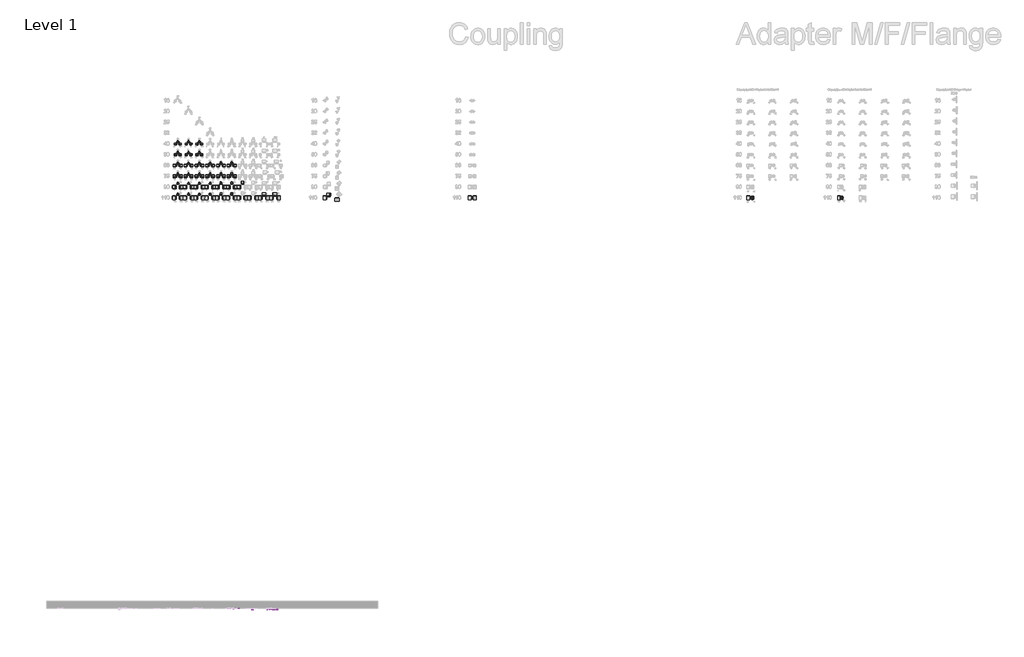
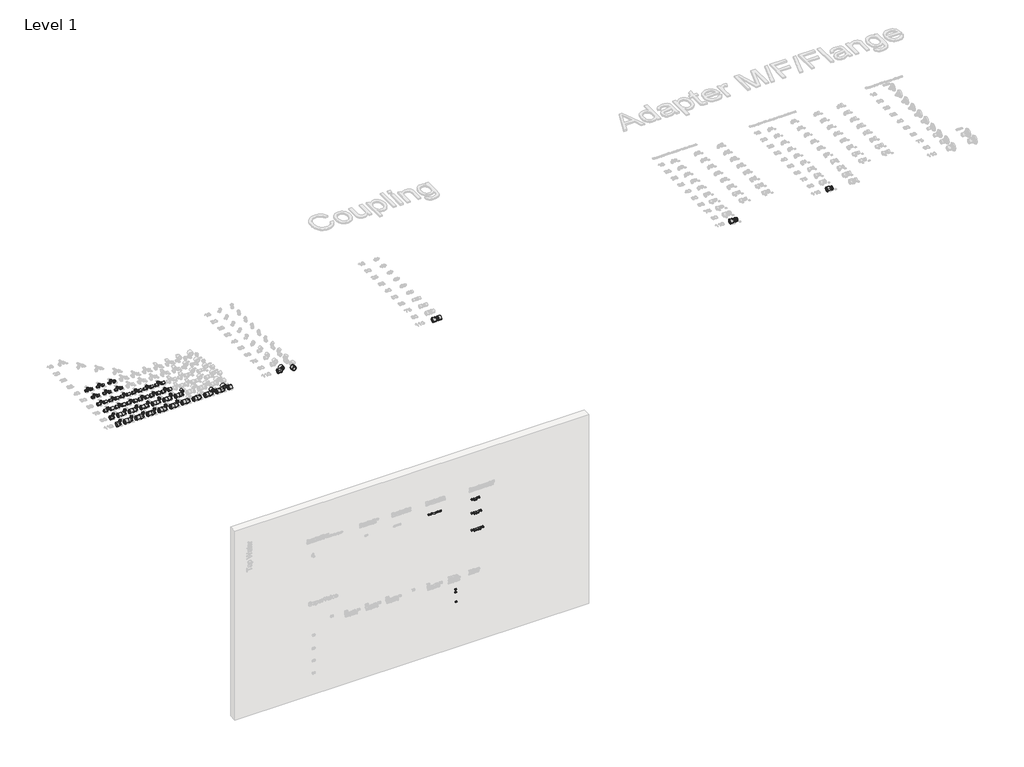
# One storey, part 2 of 58: 126 pipe fittings, 7 valves.
"""IFC4 building model written with IfcOpenShell, lengths in millimetres."""

from ifc_helpers import new_model, si_unit, origin, place, context, project, spatial, transform, mapped, element, save
from components import pipe_fitting_fd43bd29, manifold_cap_ft_2143a354, manifold_cap_mt_88d565de, rs_adapter_8da40ca7, rs_adapter_b4bbd465, rs_adapter_f82712ed, rs_adapter_ef84fdb0, rs_adapter_c6cd646c, rs_adapter_ed761ce0, rs_adapter_634e7d73, rs_adapter_fc67200b, rs_adapter_b700a1d7, rs_adapter_1ad0a11d, rs_female_adapter_0a1702e8, rs_male_adapter_f12c7176, manifold_baea2700, manifold_b658bd2c, manifold_a6c2bfd1, mounting_plate_curved_ba3850a4, valve_ad88a9f9, valve_6c7f2e19, valve_fd31198a

model = new_model("IFC4")

# Units and contexts
model_context = context("Model", 3, world=origin())
ifc_project = project(units=[si_unit("LENGTHUNIT", "METRE", prefix="MILLI")], contexts=[model_context])

# Site, building, storey
site = spatial("IfcSite", under=ifc_project)
building = spatial("IfcBuilding", under=site)
storey = spatial("IfcBuildingStorey", under=building, Name="Level 1", Elevation=27.3876384)

# Pipe fittings
placement = place(None, origin())
pipe_fitting_shape = pipe_fitting_fd43bd29(model_context)
element("IfcPipeFitting", 1, ObjectType="Compression Adapter 1/2\"FT : Superpipe Compression Adapter", at=placement, inside=storey, context=model_context, shape_type="MappedRepresentation", body=[
    mapped(pipe_fitting_shape, transform((15832.3970974, 4511.8440939, 3928.2014319), x_axis=(0.0, 0.0, 1.0000000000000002), y_axis=(0.0, 1.0000000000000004, 0.0), z_axis=(-1.0000000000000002, 0.0, 0.0))),
])
element("IfcPipeFitting", 2, ObjectType="Compression Adapter 1/2\"FT : Superpipe Compression Adapter", at=placement, inside=storey, context=model_context, shape_type="MappedRepresentation", body=[
    mapped(pipe_fitting_shape, transform((15882.3970974, 4511.8440939, 3928.2014319), x_axis=(0.0, 0.0, 1.0000000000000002), y_axis=(0.0, 1.0000000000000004, 0.0), z_axis=(-1.0000000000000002, 0.0, 0.0))),
])
element("IfcPipeFitting", 3, ObjectType="Compression Adapter 1/2\"FT : Superpipe Compression Adapter", at=placement, inside=storey, context=model_context, shape_type="MappedRepresentation", body=[
    mapped(pipe_fitting_shape, transform((15832.3970974, 4511.8440939, 3550.5915778), x_axis=(0.0, 0.0, 1.0000000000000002), y_axis=(0.0, 1.0000000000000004, 0.0), z_axis=(-1.0000000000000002, 0.0, 0.0))),
])
element("IfcPipeFitting", 4, ObjectType="Compression Adapter 1/2\"FT : Superpipe Compression Adapter", at=placement, inside=storey, context=model_context, shape_type="MappedRepresentation", body=[
    mapped(pipe_fitting_shape, transform((15882.3970974, 4511.8440939, 3550.5915778), x_axis=(0.0, 0.0, 1.0000000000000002), y_axis=(0.0, 1.0000000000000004, 0.0), z_axis=(-1.0000000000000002, 0.0, 0.0))),
])
element("IfcPipeFitting", 5, ObjectType="Compression Adapter 1/2\"FT : Superpipe Compression Adapter", at=placement, inside=storey, context=model_context, shape_type="MappedRepresentation", body=[
    mapped(pipe_fitting_shape, transform((15932.3970974, 4511.8440939, 3550.5915778), x_axis=(0.0, 0.0, 1.0000000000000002), y_axis=(0.0, 1.0000000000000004, 0.0), z_axis=(-1.0000000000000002, 0.0, 0.0))),
])
element("IfcPipeFitting", 6, ObjectType="Compression Adapter 1/2\"FT : Superpipe Compression Adapter", at=placement, inside=storey, context=model_context, shape_type="MappedRepresentation", body=[
    mapped(pipe_fitting_shape, transform((15832.3970974, 4511.8440939, 3084.9820677), x_axis=(0.0, 0.0, 1.0000000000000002), y_axis=(0.0, 1.0000000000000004, 0.0), z_axis=(-1.0000000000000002, 0.0, 0.0))),
])
element("IfcPipeFitting", 7, ObjectType="Compression Adapter 1/2\"FT : Superpipe Compression Adapter", at=placement, inside=storey, context=model_context, shape_type="MappedRepresentation", body=[
    mapped(pipe_fitting_shape, transform((15882.3970974, 4511.8440939, 3084.9820677), x_axis=(0.0, 0.0, 1.0000000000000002), y_axis=(0.0, 1.0000000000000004, 0.0), z_axis=(-1.0000000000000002, 0.0, 0.0))),
])
element("IfcPipeFitting", 8, ObjectType="Compression Adapter 1/2\"FT : Superpipe Compression Adapter", at=placement, inside=storey, context=model_context, shape_type="MappedRepresentation", body=[
    mapped(pipe_fitting_shape, transform((15932.3970974, 4511.8440939, 3084.9820677), x_axis=(0.0, 0.0, 1.0000000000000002), y_axis=(0.0, 1.0000000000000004, 0.0), z_axis=(-1.0000000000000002, 0.0, 0.0))),
])
element("IfcPipeFitting", 9, ObjectType="Compression Adapter 1/2\"FT : Superpipe Compression Adapter", at=placement, inside=storey, context=model_context, shape_type="MappedRepresentation", body=[
    mapped(pipe_fitting_shape, transform((15982.3970974, 4511.8440939, 3084.9820677), x_axis=(0.0, 0.0, 1.0000000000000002), y_axis=(0.0, 1.0000000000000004, 0.0), z_axis=(-1.0000000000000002, 0.0, 0.0))),
])
manifold_cap_ft_shape = manifold_cap_ft_2143a354(model_context)
element("IfcPipeFitting", 10, ObjectType="Manifold Cap FT : Superpipe Manifold Cap With Seal- 1\" FT", at=placement, inside=storey, context=model_context, shape_type="MappedRepresentation", body=[
    mapped(manifold_cap_ft_shape, transform((15768.3970974, 4511.8440939, 3974.0856598), x_axis=(-1.0, 0.0, 0.0), y_axis=(0.0, -1.0, 0.0), z_axis=(0.0, 0.0, 1.0))),
])
element("IfcPipeFitting", 11, ObjectType="Manifold Cap FT : Superpipe Manifold Cap With Seal- 1\" FT", at=placement, inside=storey, context=model_context, shape_type="MappedRepresentation", body=[
    mapped(manifold_cap_ft_shape, transform((15768.3970974, 4511.8440939, 3596.4758057), x_axis=(-1.0, 0.0, 0.0), y_axis=(0.0, -1.0, 0.0), z_axis=(0.0, 0.0, 1.0))),
])
element("IfcPipeFitting", 12, ObjectType="Manifold Cap FT : Superpipe Manifold Cap With Seal- 1\" FT", at=placement, inside=storey, context=model_context, shape_type="MappedRepresentation", body=[
    mapped(manifold_cap_ft_shape, transform((15768.3970974, 4511.8440939, 3130.8662956), x_axis=(-1.0, 0.0, 0.0), y_axis=(0.0, -1.0, 0.0), z_axis=(0.0, 0.0, 1.0))),
])
manifold_cap_mt_shape = manifold_cap_mt_88d565de(model_context)
element("IfcPipeFitting", 13, ObjectType="Manifold Cap MT : Superpipe manifold Cap with seal- 1“MT", at=placement, inside=storey, context=model_context, shape_type="MappedRepresentation", body=[
    mapped(manifold_cap_mt_shape, transform((15941.7970974, 4511.8440939, 3974.0856598), x_axis=(1.0, 0.0, 0.0), y_axis=(0.0, -1.0, 0.0), z_axis=(0.0, 0.0, -1.0))),
])
element("IfcPipeFitting", 14, ObjectType="Manifold Cap MT : Superpipe manifold Cap with seal- 1“MT", at=placement, inside=storey, context=model_context, shape_type="MappedRepresentation", body=[
    mapped(manifold_cap_mt_shape, transform((15991.7970974, 4511.8440939, 3596.4755454), x_axis=(1.0, 0.0, 0.0), y_axis=(0.0, -1.0, 0.0), z_axis=(0.0, 0.0, -1.0))),
])
element("IfcPipeFitting", 15, ObjectType="Manifold Cap MT : Superpipe manifold Cap with seal- 1“MT", at=placement, inside=storey, context=model_context, shape_type="MappedRepresentation", body=[
    mapped(manifold_cap_mt_shape, transform((16041.7970974, 4511.8440939, 3130.8660352), x_axis=(1.0, 0.0, 0.0), y_axis=(0.0, -1.0, 0.0), z_axis=(0.0, 0.0, -1.0))),
])
rs_adapter_shape = rs_adapter_8da40ca7(model_context)
element("IfcPipeFitting", 16, ObjectType="RS Adapter : Superpipe RS Press Adapter", at=placement, inside=storey, context=model_context, shape_type="MappedRepresentation", body=[
    mapped(rs_adapter_shape, transform((13313.8568613, 15946.8081159, 27.3876384), x_axis=(1.0, 0.0, 0.0), y_axis=(0.0, 1.0, 0.0), z_axis=(0.0, 0.0, 1.0))),
])
element("IfcPipeFitting", 17, ObjectType="RS Adapter : Superpipe RS Press Adapter", at=placement, inside=storey, context=model_context, shape_type="MappedRepresentation", body=[
    mapped(rs_adapter_shape, transform((13217.8568613, 15946.8081159, 27.3876384), x_axis=(-1.0000000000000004, 0.0, 0.0), y_axis=(0.0, -1.0000000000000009, 0.0), z_axis=(0.0, 0.0, 1.0000000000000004))),
])
element("IfcPipeFitting", 18, ObjectType="RS Adapter : Superpipe RS Press Adapter", at=placement, inside=storey, context=model_context, shape_type="MappedRepresentation", body=[
    mapped(rs_adapter_shape, transform((13613.8568613, 15946.8081159, 27.3876384), x_axis=(1.0, 0.0, 0.0), y_axis=(0.0, 1.0, 0.0), z_axis=(0.0, 0.0, 1.0))),
])
element("IfcPipeFitting", 19, ObjectType="RS Adapter : Superpipe RS Press Adapter", at=placement, inside=storey, context=model_context, shape_type="MappedRepresentation", body=[
    mapped(rs_adapter_shape, transform((13517.8568613, 15946.8081159, 27.3876384), x_axis=(-1.0000000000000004, 0.0, 0.0), y_axis=(0.0, -1.0000000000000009, 0.0), z_axis=(0.0, 0.0, 1.0000000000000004))),
])
element("IfcPipeFitting", 20, ObjectType="RS Adapter : Superpipe RS Press Adapter", at=placement, inside=storey, context=model_context, shape_type="MappedRepresentation", body=[
    mapped(rs_adapter_shape, transform((13913.8568613, 15946.8081159, 27.3876384), x_axis=(1.0, 0.0, 0.0), y_axis=(0.0, 1.0, 0.0), z_axis=(0.0, 0.0, 1.0))),
])
element("IfcPipeFitting", 21, ObjectType="RS Adapter : Superpipe RS Press Adapter", at=placement, inside=storey, context=model_context, shape_type="MappedRepresentation", body=[
    mapped(rs_adapter_shape, transform((13817.8568613, 15946.8081159, 27.3876384), x_axis=(-1.0000000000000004, 0.0, 0.0), y_axis=(0.0, -1.0000000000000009, 0.0), z_axis=(0.0, 0.0, 1.0000000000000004))),
])
element("IfcPipeFitting", 22, ObjectType="RS Adapter : Superpipe RS Press Adapter", at=placement, inside=storey, context=model_context, shape_type="MappedRepresentation", body=[
    mapped(rs_adapter_shape, transform((15705.8568613, 15946.8081159, 27.3876384), x_axis=(1.0, 0.0, 0.0), y_axis=(0.0, 1.0, 0.0), z_axis=(0.0, 0.0, 1.0))),
])
element("IfcPipeFitting", 23, ObjectType="RS Adapter : Superpipe RS Press Adapter", at=placement, inside=storey, context=model_context, shape_type="MappedRepresentation", body=[
    mapped(rs_adapter_shape, transform((15609.8568613, 15946.8081159, 27.3876384), x_axis=(-1.0000000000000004, 0.0, 0.0), y_axis=(0.0, -1.0000000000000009, 0.0), z_axis=(0.0, 0.0, 1.0000000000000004))),
])
element("IfcPipeFitting", 24, ObjectType="RS Adapter : Superpipe RS Press Adapter", at=placement, inside=storey, context=model_context, shape_type="MappedRepresentation", body=[
    mapped(rs_adapter_shape, transform((16013.8568613, 15946.8081159, 27.3876384), x_axis=(1.0, 0.0, 0.0), y_axis=(0.0, 1.0, 0.0), z_axis=(0.0, 0.0, 1.0))),
])
element("IfcPipeFitting", 25, ObjectType="RS Adapter : Superpipe RS Press Adapter", at=placement, inside=storey, context=model_context, shape_type="MappedRepresentation", body=[
    mapped(rs_adapter_shape, transform((15965.8568613, 15994.8081159, 27.3876384), x_axis=(0.0, 1.0000000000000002, 0.0), y_axis=(-1.0000000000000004, 0.0, 0.0), z_axis=(0.0, 0.0, 1.0000000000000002))),
])
element("IfcPipeFitting", 26, ObjectType="RS Adapter : Superpipe RS Press Adapter", at=placement, inside=storey, context=model_context, shape_type="MappedRepresentation", body=[
    mapped(rs_adapter_shape, transform((15917.8568613, 15946.8081159, 27.3876384), x_axis=(-1.0000000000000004, 0.0, 0.0), y_axis=(0.0, -1.0000000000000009, 0.0), z_axis=(0.0, 0.0, 1.0000000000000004))),
])
element("IfcPipeFitting", 27, ObjectType="RS Adapter : Superpipe RS Press Adapter", at=placement, inside=storey, context=model_context, shape_type="MappedRepresentation", body=[
    mapped(rs_adapter_shape, transform((21437.9646899, 15946.8081159, 27.3876384), x_axis=(-1.0000000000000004, 0.0, 0.0), y_axis=(0.0, 1.0000000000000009, 0.0), z_axis=(0.0, 0.0, -1.0000000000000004))),
])
element("IfcPipeFitting", 28, ObjectType="RS Adapter : Superpipe RS Press Adapter", at=placement, inside=storey, context=model_context, shape_type="MappedRepresentation", body=[
    mapped(rs_adapter_shape, transform((21455.9646899, 15946.8081159, 27.3876384), x_axis=(1.0000000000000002, 0.0, 0.0), y_axis=(0.0, -1.0000000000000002, 0.0), z_axis=(0.0, 0.0, -1.0))),
])
element("IfcPipeFitting", 29, ObjectType="RS Adapter : Superpipe RS Press Adapter", at=placement, inside=storey, context=model_context, shape_type="MappedRepresentation", body=[
    mapped(rs_adapter_shape, transform((29176.6568613, 15946.8081159, 27.3876384), x_axis=(-1.0, 0.0, 0.0), y_axis=(0.0, 1.0, 0.0), z_axis=(0.0, 0.0, -1.0))),
])
element("IfcPipeFitting", 30, ObjectType="RS Adapter : Superpipe RS Press Adapter", at=placement, inside=storey, context=model_context, shape_type="MappedRepresentation", body=[
    mapped(rs_adapter_shape, transform((31696.6568613, 15946.8081159, 27.3876384), x_axis=(-1.0000000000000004, 0.0, 0.0), y_axis=(0.0, 1.0000000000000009, 0.0), z_axis=(0.0, 0.0, -1.0000000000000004))),
])
element("IfcPipeFitting", 31, ObjectType="RS Adapter : Superpipe RS Press Adapter", at=placement, inside=storey, context=model_context, shape_type="MappedRepresentation", body=[
    mapped(rs_adapter_shape, transform((17459.3568613, 15977.8081159, 27.3876384), x_axis=(0.0, 1.000000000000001, 0.0), y_axis=(-1.0000000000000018, 0.0, 0.0), z_axis=(0.0, 0.0, 1.0000000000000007))),
])
element("IfcPipeFitting", 32, ObjectType="RS Adapter : Superpipe RS Press Adapter", at=placement, inside=storey, context=model_context, shape_type="MappedRepresentation", body=[
    mapped(rs_adapter_shape, transform((17411.3568613, 15946.8081159, 27.3876384), x_axis=(-1.0000000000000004, 0.0, 0.0), y_axis=(0.0, -1.0000000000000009, 0.0), z_axis=(0.0, 0.0, 1.0000000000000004))),
])
element("IfcPipeFitting", 33, ObjectType="RS Adapter : Superpipe RS Press Adapter", at=placement, inside=storey, context=model_context, shape_type="MappedRepresentation", body=[
    mapped(rs_adapter_shape, transform((17689.2955265, 15954.8896532, 27.3876384), x_axis=(0.0, -1.000000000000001, 0.0), y_axis=(1.0000000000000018, 0.0, 0.0), z_axis=(0.0, 0.0, 1.0000000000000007))),
])
element("IfcPipeFitting", 34, ObjectType="RS Adapter : Superpipe RS Press Adapter", at=placement, inside=storey, context=model_context, shape_type="MappedRepresentation", body=[
    mapped(rs_adapter_shape, transform((15405.2392827, 15946.8081159, 27.3876384), x_axis=(1.0, 0.0, 0.0), y_axis=(0.0, 1.0, 0.0), z_axis=(0.0, 0.0, 1.0))),
])
element("IfcPipeFitting", 35, ObjectType="RS Adapter : Superpipe RS Press Adapter", at=placement, inside=storey, context=model_context, shape_type="MappedRepresentation", body=[
    mapped(rs_adapter_shape, transform((15309.2392827, 15946.8081159, 27.3876384), x_axis=(-1.0000000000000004, 0.0, 0.0), y_axis=(0.0, -1.0000000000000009, 0.0), z_axis=(0.0, 0.0, 1.0000000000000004))),
])
element("IfcPipeFitting", 36, ObjectType="RS Adapter : Superpipe RS Press Adapter", at=placement, inside=storey, context=model_context, shape_type="MappedRepresentation", body=[
    mapped(rs_adapter_shape, transform((15105.765703, 15946.8081159, 27.3876384), x_axis=(1.0, 0.0, 0.0), y_axis=(0.0, 1.0, 0.0), z_axis=(0.0, 0.0, 1.0))),
])
element("IfcPipeFitting", 37, ObjectType="RS Adapter : Superpipe RS Press Adapter", at=placement, inside=storey, context=model_context, shape_type="MappedRepresentation", body=[
    mapped(rs_adapter_shape, transform((15009.765703, 15946.8081159, 27.3876384), x_axis=(-1.0000000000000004, 0.0, 0.0), y_axis=(0.0, -1.0000000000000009, 0.0), z_axis=(0.0, 0.0, 1.0000000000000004))),
])
element("IfcPipeFitting", 38, ObjectType="RS Adapter : Superpipe RS Press Adapter", at=placement, inside=storey, context=model_context, shape_type="MappedRepresentation", body=[
    mapped(rs_adapter_shape, transform((14809.5592318, 15946.8081159, 27.3876384), x_axis=(1.0, 0.0, 0.0), y_axis=(0.0, 1.0, 0.0), z_axis=(0.0, 0.0, 1.0))),
])
element("IfcPipeFitting", 39, ObjectType="RS Adapter : Superpipe RS Press Adapter", at=placement, inside=storey, context=model_context, shape_type="MappedRepresentation", body=[
    mapped(rs_adapter_shape, transform((14713.5592318, 15946.8081159, 27.3876384), x_axis=(-1.0000000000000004, 0.0, 0.0), y_axis=(0.0, -1.0000000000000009, 0.0), z_axis=(0.0, 0.0, 1.0000000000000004))),
])
element("IfcPipeFitting", 40, ObjectType="RS Adapter : Superpipe RS Press Adapter", at=placement, inside=storey, context=model_context, shape_type="MappedRepresentation", body=[
    mapped(rs_adapter_shape, transform((14508.4742183, 15946.8081159, 27.3876384), x_axis=(1.0, 0.0, 0.0), y_axis=(0.0, 1.0, 0.0), z_axis=(0.0, 0.0, 1.0))),
])
element("IfcPipeFitting", 41, ObjectType="RS Adapter : Superpipe RS Press Adapter", at=placement, inside=storey, context=model_context, shape_type="MappedRepresentation", body=[
    mapped(rs_adapter_shape, transform((14412.4742183, 15946.8081159, 27.3876384), x_axis=(-1.0000000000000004, 0.0, 0.0), y_axis=(0.0, -1.0000000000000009, 0.0), z_axis=(0.0, 0.0, 1.0000000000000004))),
])
element("IfcPipeFitting", 42, ObjectType="RS Adapter : Superpipe RS Press Adapter", at=placement, inside=storey, context=model_context, shape_type="MappedRepresentation", body=[
    mapped(rs_adapter_shape, transform((14211.0780706, 15945.8788923, 27.3876384), x_axis=(1.0, 0.0, 0.0), y_axis=(0.0, 1.0, 0.0), z_axis=(0.0, 0.0, 1.0))),
])
element("IfcPipeFitting", 43, ObjectType="RS Adapter : Superpipe RS Press Adapter", at=placement, inside=storey, context=model_context, shape_type="MappedRepresentation", body=[
    mapped(rs_adapter_shape, transform((14115.0780706, 15945.8788923, 27.3876384), x_axis=(-1.0000000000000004, 0.0, 0.0), y_axis=(0.0, -1.0000000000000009, 0.0), z_axis=(0.0, 0.0, 1.0000000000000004))),
])
rs_adapter_2_shape = rs_adapter_b4bbd465(model_context)
element("IfcPipeFitting", 44, ObjectType="RS Adapter : Superpipe RS Press Adapter", at=placement, inside=storey, context=model_context, shape_type="MappedRepresentation", body=[
    mapped(rs_adapter_2_shape, transform((13265.8568613, 16021.8081159, 27.3876384), x_axis=(0.0, 1.0000000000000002, 0.0), y_axis=(-1.0000000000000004, 0.0, 0.0), z_axis=(0.0, 0.0, 1.0000000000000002))),
])
element("IfcPipeFitting", 45, ObjectType="RS Adapter : Superpipe RS Press Adapter", at=placement, inside=storey, context=model_context, shape_type="MappedRepresentation", body=[
    mapped(rs_adapter_2_shape, transform((13265.8568613, 16321.8081159, 27.3876384), x_axis=(0.0, 1.0000000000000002, 0.0), y_axis=(1.0000000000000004, 0.0, 0.0), z_axis=(0.0, 0.0, -1.0000000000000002))),
])
element("IfcPipeFitting", 46, ObjectType="RS Adapter : Superpipe RS Press Adapter", at=placement, inside=storey, context=model_context, shape_type="MappedRepresentation", body=[
    mapped(rs_adapter_2_shape, transform((13265.8568613, 17477.8081159, 27.3876384), x_axis=(0.0, 1.0000000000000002, 0.0), y_axis=(1.0000000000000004, 0.0, 0.0), z_axis=(0.0, 0.0, -1.0000000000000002))),
])
element("IfcPipeFitting", 47, ObjectType="RS Adapter : Superpipe RS Press Adapter", at=placement, inside=storey, context=model_context, shape_type="MappedRepresentation", body=[
    mapped(rs_adapter_2_shape, transform((13265.8568613, 17177.8081159, 27.3876384), x_axis=(0.0, 1.0000000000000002, 0.0), y_axis=(1.0000000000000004, 0.0, 0.0), z_axis=(0.0, 0.0, -1.0000000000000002))),
])
element("IfcPipeFitting", 48, ObjectType="RS Adapter : Superpipe RS Press Adapter", at=placement, inside=storey, context=model_context, shape_type="MappedRepresentation", body=[
    mapped(rs_adapter_2_shape, transform((13265.8568613, 16877.8081159, 27.3876384), x_axis=(0.0, 1.0000000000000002, 0.0), y_axis=(1.0000000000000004, 0.0, 0.0), z_axis=(0.0, 0.0, -1.0000000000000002))),
])
element("IfcPipeFitting", 49, ObjectType="RS Adapter : Superpipe RS Press Adapter", at=placement, inside=storey, context=model_context, shape_type="MappedRepresentation", body=[
    mapped(rs_adapter_2_shape, transform((13265.8568613, 16577.8081159, 27.3876384), x_axis=(0.0, 1.0000000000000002, 0.0), y_axis=(1.0000000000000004, 0.0, 0.0), z_axis=(0.0, 0.0, -1.0000000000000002))),
])
rs_adapter_3_shape = rs_adapter_f82712ed(model_context)
element("IfcPipeFitting", 50, ObjectType="RS Adapter : Superpipe RS Press Adapter", at=placement, inside=storey, context=model_context, shape_type="MappedRepresentation", body=[
    mapped(rs_adapter_3_shape, transform((13565.8568613, 16021.8081159, 27.3876384), x_axis=(0.0, 1.0000000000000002, 0.0), y_axis=(-1.0000000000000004, 0.0, 0.0), z_axis=(0.0, 0.0, 1.0000000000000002))),
])
element("IfcPipeFitting", 51, ObjectType="RS Adapter : Superpipe RS Press Adapter", at=placement, inside=storey, context=model_context, shape_type="MappedRepresentation", body=[
    mapped(rs_adapter_3_shape, transform((13565.8568613, 16321.8081159, 27.3876384), x_axis=(0.0, 1.0000000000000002, 0.0), y_axis=(1.0000000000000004, 0.0, 0.0), z_axis=(0.0, 0.0, -1.0000000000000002))),
])
element("IfcPipeFitting", 52, ObjectType="RS Adapter : Superpipe RS Press Adapter", at=placement, inside=storey, context=model_context, shape_type="MappedRepresentation", body=[
    mapped(rs_adapter_3_shape, transform((13565.8568613, 17477.8081159, 27.3876384), x_axis=(0.0, 1.0000000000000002, 0.0), y_axis=(1.0000000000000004, 0.0, 0.0), z_axis=(0.0, 0.0, -1.0000000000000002))),
])
element("IfcPipeFitting", 53, ObjectType="RS Adapter : Superpipe RS Press Adapter", at=placement, inside=storey, context=model_context, shape_type="MappedRepresentation", body=[
    mapped(rs_adapter_3_shape, transform((13565.8568613, 17177.8081159, 27.3876384), x_axis=(0.0, 1.0000000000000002, 0.0), y_axis=(1.0000000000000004, 0.0, 0.0), z_axis=(0.0, 0.0, -1.0000000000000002))),
])
element("IfcPipeFitting", 54, ObjectType="RS Adapter : Superpipe RS Press Adapter", at=placement, inside=storey, context=model_context, shape_type="MappedRepresentation", body=[
    mapped(rs_adapter_3_shape, transform((13565.8568613, 16877.8081159, 27.3876384), x_axis=(0.0, 1.0000000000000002, 0.0), y_axis=(1.0000000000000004, 0.0, 0.0), z_axis=(0.0, 0.0, -1.0000000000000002))),
])
element("IfcPipeFitting", 55, ObjectType="RS Adapter : Superpipe RS Press Adapter", at=placement, inside=storey, context=model_context, shape_type="MappedRepresentation", body=[
    mapped(rs_adapter_3_shape, transform((13565.8568613, 16577.8081159, 27.3876384), x_axis=(0.0, 1.0000000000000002, 0.0), y_axis=(1.0000000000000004, 0.0, 0.0), z_axis=(0.0, 0.0, -1.0000000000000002))),
])
rs_adapter_4_shape = rs_adapter_ef84fdb0(model_context)
element("IfcPipeFitting", 56, ObjectType="RS Adapter : Superpipe RS Press Adapter", at=placement, inside=storey, context=model_context, shape_type="MappedRepresentation", body=[
    mapped(rs_adapter_4_shape, transform((13865.8568613, 16021.8081159, 27.3876384), x_axis=(0.0, 1.0000000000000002, 0.0), y_axis=(-1.0000000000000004, 0.0, 0.0), z_axis=(0.0, 0.0, 1.0000000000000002))),
])
element("IfcPipeFitting", 57, ObjectType="RS Adapter : Superpipe RS Press Adapter", at=placement, inside=storey, context=model_context, shape_type="MappedRepresentation", body=[
    mapped(rs_adapter_4_shape, transform((13865.8568613, 16321.8081159, 27.3876384), x_axis=(0.0, 1.0000000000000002, 0.0), y_axis=(1.0000000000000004, 0.0, 0.0), z_axis=(0.0, 0.0, -1.0000000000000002))),
])
element("IfcPipeFitting", 58, ObjectType="RS Adapter : Superpipe RS Press Adapter", at=placement, inside=storey, context=model_context, shape_type="MappedRepresentation", body=[
    mapped(rs_adapter_4_shape, transform((13865.8568613, 17477.8081159, 27.3876384), x_axis=(0.0, 1.0000000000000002, 0.0), y_axis=(1.0000000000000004, 0.0, 0.0), z_axis=(0.0, 0.0, -1.0000000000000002))),
])
element("IfcPipeFitting", 59, ObjectType="RS Adapter : Superpipe RS Press Adapter", at=placement, inside=storey, context=model_context, shape_type="MappedRepresentation", body=[
    mapped(rs_adapter_4_shape, transform((13865.8568613, 17177.8081159, 27.3876384), x_axis=(0.0, 1.0000000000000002, 0.0), y_axis=(1.0000000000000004, 0.0, 0.0), z_axis=(0.0, 0.0, -1.0000000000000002))),
])
element("IfcPipeFitting", 60, ObjectType="RS Adapter : Superpipe RS Press Adapter", at=placement, inside=storey, context=model_context, shape_type="MappedRepresentation", body=[
    mapped(rs_adapter_4_shape, transform((13865.8568613, 16877.8081159, 27.3876384), x_axis=(0.0, 1.0000000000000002, 0.0), y_axis=(1.0000000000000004, 0.0, 0.0), z_axis=(0.0, 0.0, -1.0000000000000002))),
])
element("IfcPipeFitting", 61, ObjectType="RS Adapter : Superpipe RS Press Adapter", at=placement, inside=storey, context=model_context, shape_type="MappedRepresentation", body=[
    mapped(rs_adapter_4_shape, transform((13865.8568613, 16577.8081159, 27.3876384), x_axis=(0.0, 1.0000000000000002, 0.0), y_axis=(1.0000000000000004, 0.0, 0.0), z_axis=(0.0, 0.0, -1.0000000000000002))),
])
rs_adapter_5_shape = rs_adapter_c6cd646c(model_context)
element("IfcPipeFitting", 62, ObjectType="RS Adapter : Superpipe RS Press Adapter", at=placement, inside=storey, context=model_context, shape_type="MappedRepresentation", body=[
    mapped(rs_adapter_5_shape, transform((15657.8568613, 15994.8081159, 27.3876384), x_axis=(0.0, 1.0000000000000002, 0.0), y_axis=(-1.0000000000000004, 0.0, 0.0), z_axis=(0.0, 0.0, 1.0000000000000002))),
])
element("IfcPipeFitting", 63, ObjectType="RS Adapter : Superpipe RS Press Adapter", at=placement, inside=storey, context=model_context, shape_type="MappedRepresentation", body=[
    mapped(rs_adapter_5_shape, transform((13217.8568613, 16246.8081159, 27.3876384), x_axis=(-1.0, 0.0, 0.0), y_axis=(0.0, 1.0, 0.0), z_axis=(0.0, 0.0, -1.0))),
])
element("IfcPipeFitting", 64, ObjectType="RS Adapter : Superpipe RS Press Adapter", at=placement, inside=storey, context=model_context, shape_type="MappedRepresentation", body=[
    mapped(rs_adapter_5_shape, transform((13313.8568613, 16246.8081159, 27.3876384), x_axis=(1.0000000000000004, 0.0, 0.0), y_axis=(0.0, -1.0000000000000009, 0.0), z_axis=(0.0, 0.0, -1.0000000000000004))),
])
element("IfcPipeFitting", 65, ObjectType="RS Adapter : Superpipe RS Press Adapter", at=placement, inside=storey, context=model_context, shape_type="MappedRepresentation", body=[
    mapped(rs_adapter_5_shape, transform((13517.8568613, 16246.8081159, 27.3876384), x_axis=(-1.0, 0.0, 0.0), y_axis=(0.0, 1.0, 0.0), z_axis=(0.0, 0.0, -1.0))),
])
element("IfcPipeFitting", 66, ObjectType="RS Adapter : Superpipe RS Press Adapter", at=placement, inside=storey, context=model_context, shape_type="MappedRepresentation", body=[
    mapped(rs_adapter_5_shape, transform((13613.8568613, 16246.8081159, 27.3876384), x_axis=(1.0000000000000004, 0.0, 0.0), y_axis=(0.0, -1.0000000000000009, 0.0), z_axis=(0.0, 0.0, -1.0000000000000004))),
])
element("IfcPipeFitting", 67, ObjectType="RS Adapter : Superpipe RS Press Adapter", at=placement, inside=storey, context=model_context, shape_type="MappedRepresentation", body=[
    mapped(rs_adapter_5_shape, transform((13817.8568613, 16246.8081159, 27.3876384), x_axis=(-1.0, 0.0, 0.0), y_axis=(0.0, 1.0, 0.0), z_axis=(0.0, 0.0, -1.0))),
])
element("IfcPipeFitting", 68, ObjectType="RS Adapter : Superpipe RS Press Adapter", at=placement, inside=storey, context=model_context, shape_type="MappedRepresentation", body=[
    mapped(rs_adapter_5_shape, transform((13913.8568613, 16246.8081159, 27.3876384), x_axis=(1.0000000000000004, 0.0, 0.0), y_axis=(0.0, -1.0000000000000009, 0.0), z_axis=(0.0, 0.0, -1.0000000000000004))),
])
element("IfcPipeFitting", 69, ObjectType="RS Adapter : Superpipe RS Press Adapter", at=placement, inside=storey, context=model_context, shape_type="MappedRepresentation", body=[
    mapped(rs_adapter_5_shape, transform((14117.8568613, 16246.8081159, 27.3876384), x_axis=(-1.0, 0.0, 0.0), y_axis=(0.0, 1.0, 0.0), z_axis=(0.0, 0.0, -1.0))),
])
element("IfcPipeFitting", 70, ObjectType="RS Adapter : Superpipe RS Press Adapter", at=placement, inside=storey, context=model_context, shape_type="MappedRepresentation", body=[
    mapped(rs_adapter_5_shape, transform((14213.8568613, 16246.8081159, 27.3876384), x_axis=(1.0000000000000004, 0.0, 0.0), y_axis=(0.0, -1.0000000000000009, 0.0), z_axis=(0.0, 0.0, -1.0000000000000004))),
])
element("IfcPipeFitting", 71, ObjectType="RS Adapter : Superpipe RS Press Adapter", at=placement, inside=storey, context=model_context, shape_type="MappedRepresentation", body=[
    mapped(rs_adapter_5_shape, transform((14417.8568613, 16246.8081159, 27.3876384), x_axis=(-1.0, 0.0, 0.0), y_axis=(0.0, 1.0, 0.0), z_axis=(0.0, 0.0, -1.0))),
])
element("IfcPipeFitting", 72, ObjectType="RS Adapter : Superpipe RS Press Adapter", at=placement, inside=storey, context=model_context, shape_type="MappedRepresentation", body=[
    mapped(rs_adapter_5_shape, transform((14513.8568613, 16246.8081159, 27.3876384), x_axis=(1.0000000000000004, 0.0, 0.0), y_axis=(0.0, -1.0000000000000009, 0.0), z_axis=(0.0, 0.0, -1.0000000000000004))),
])
element("IfcPipeFitting", 73, ObjectType="RS Adapter : Superpipe RS Press Adapter", at=placement, inside=storey, context=model_context, shape_type="MappedRepresentation", body=[
    mapped(rs_adapter_5_shape, transform((14717.8568613, 16246.8081159, 27.3876384), x_axis=(-1.0, 0.0, 0.0), y_axis=(0.0, 1.0, 0.0), z_axis=(0.0, 0.0, -1.0))),
])
element("IfcPipeFitting", 74, ObjectType="RS Adapter : Superpipe RS Press Adapter", at=placement, inside=storey, context=model_context, shape_type="MappedRepresentation", body=[
    mapped(rs_adapter_5_shape, transform((14813.8568613, 16246.8081159, 27.3876384), x_axis=(1.0000000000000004, 0.0, 0.0), y_axis=(0.0, -1.0000000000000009, 0.0), z_axis=(0.0, 0.0, -1.0000000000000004))),
])
element("IfcPipeFitting", 75, ObjectType="RS Adapter : Superpipe RS Press Adapter", at=placement, inside=storey, context=model_context, shape_type="MappedRepresentation", body=[
    mapped(rs_adapter_5_shape, transform((15017.8568613, 16246.8081159, 27.3876384), x_axis=(-1.0, 0.0, 0.0), y_axis=(0.0, 1.0, 0.0), z_axis=(0.0, 0.0, -1.0))),
])
rs_adapter_6_shape = rs_adapter_ed761ce0(model_context)
element("IfcPipeFitting", 76, ObjectType="RS Adapter : Superpipe RS Press Adapter", at=placement, inside=storey, context=model_context, shape_type="MappedRepresentation", body=[
    mapped(rs_adapter_6_shape, transform((14165.8568613, 16321.8081159, 27.3876384), x_axis=(0.0, 1.0000000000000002, 0.0), y_axis=(1.0000000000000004, 0.0, 0.0), z_axis=(0.0, 0.0, -1.0000000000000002))),
])
element("IfcPipeFitting", 77, ObjectType="RS Adapter : Superpipe RS Press Adapter", at=placement, inside=storey, context=model_context, shape_type="MappedRepresentation", body=[
    mapped(rs_adapter_6_shape, transform((14165.8568613, 16877.8081159, 27.3876384), x_axis=(0.0, 1.0000000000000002, 0.0), y_axis=(1.0000000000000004, 0.0, 0.0), z_axis=(0.0, 0.0, -1.0000000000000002))),
])
element("IfcPipeFitting", 78, ObjectType="RS Adapter : Superpipe RS Press Adapter", at=placement, inside=storey, context=model_context, shape_type="MappedRepresentation", body=[
    mapped(rs_adapter_6_shape, transform((14165.8568613, 16577.8081159, 27.3876384), x_axis=(0.0, 1.0000000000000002, 0.0), y_axis=(1.0000000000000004, 0.0, 0.0), z_axis=(0.0, 0.0, -1.0000000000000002))),
])
element("IfcPipeFitting", 79, ObjectType="RS Adapter : Superpipe RS Press Adapter", at=placement, inside=storey, context=model_context, shape_type="MappedRepresentation", body=[
    mapped(rs_adapter_6_shape, transform((14163.0780706, 16020.8788923, 27.3876384), x_axis=(0.0, 1.0000000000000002, 0.0), y_axis=(-1.0000000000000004, 0.0, 0.0), z_axis=(0.0, 0.0, 1.0000000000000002))),
])
rs_adapter_7_shape = rs_adapter_634e7d73(model_context)
element("IfcPipeFitting", 80, ObjectType="RS Adapter : Superpipe RS Press Adapter", at=placement, inside=storey, context=model_context, shape_type="MappedRepresentation", body=[
    mapped(rs_adapter_7_shape, transform((14465.8568613, 16321.8081159, 27.3876384), x_axis=(0.0, 1.0000000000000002, 0.0), y_axis=(1.0000000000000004, 0.0, 0.0), z_axis=(0.0, 0.0, -1.0000000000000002))),
])
element("IfcPipeFitting", 81, ObjectType="RS Adapter : Superpipe RS Press Adapter", at=placement, inside=storey, context=model_context, shape_type="MappedRepresentation", body=[
    mapped(rs_adapter_7_shape, transform((13234.8568613, 17446.8081159, 27.3876384), x_axis=(-1.0, 0.0, 0.0), y_axis=(0.0, 1.0, 0.0), z_axis=(0.0, 0.0, -1.0))),
])
element("IfcPipeFitting", 82, ObjectType="RS Adapter : Superpipe RS Press Adapter", at=placement, inside=storey, context=model_context, shape_type="MappedRepresentation", body=[
    mapped(rs_adapter_7_shape, transform((13296.8568613, 17446.8081159, 27.3876384), x_axis=(1.0000000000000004, 0.0, 0.0), y_axis=(0.0, -1.0000000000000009, 0.0), z_axis=(0.0, 0.0, -1.0000000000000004))),
])
element("IfcPipeFitting", 83, ObjectType="RS Adapter : Superpipe RS Press Adapter", at=placement, inside=storey, context=model_context, shape_type="MappedRepresentation", body=[
    mapped(rs_adapter_7_shape, transform((13534.8568613, 17446.8081159, 27.3876384), x_axis=(-1.0, 0.0, 0.0), y_axis=(0.0, 1.0, 0.0), z_axis=(0.0, 0.0, -1.0))),
])
element("IfcPipeFitting", 84, ObjectType="RS Adapter : Superpipe RS Press Adapter", at=placement, inside=storey, context=model_context, shape_type="MappedRepresentation", body=[
    mapped(rs_adapter_7_shape, transform((13596.8568613, 17446.8081159, 27.3876384), x_axis=(1.0000000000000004, 0.0, 0.0), y_axis=(0.0, -1.0000000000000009, 0.0), z_axis=(0.0, 0.0, -1.0000000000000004))),
])
element("IfcPipeFitting", 85, ObjectType="RS Adapter : Superpipe RS Press Adapter", at=placement, inside=storey, context=model_context, shape_type="MappedRepresentation", body=[
    mapped(rs_adapter_7_shape, transform((13834.8568613, 17446.8081159, 27.3876384), x_axis=(-1.0, 0.0, 0.0), y_axis=(0.0, 1.0, 0.0), z_axis=(0.0, 0.0, -1.0))),
])
element("IfcPipeFitting", 86, ObjectType="RS Adapter : Superpipe RS Press Adapter", at=placement, inside=storey, context=model_context, shape_type="MappedRepresentation", body=[
    mapped(rs_adapter_7_shape, transform((13896.8568613, 17446.8081159, 27.3876384), x_axis=(1.0000000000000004, 0.0, 0.0), y_axis=(0.0, -1.0000000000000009, 0.0), z_axis=(0.0, 0.0, -1.0000000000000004))),
])
element("IfcPipeFitting", 87, ObjectType="RS Adapter : Superpipe RS Press Adapter", at=placement, inside=storey, context=model_context, shape_type="MappedRepresentation", body=[
    mapped(rs_adapter_7_shape, transform((14465.8568613, 16877.8081159, 27.3876384), x_axis=(0.0, 1.0000000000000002, 0.0), y_axis=(1.0000000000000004, 0.0, 0.0), z_axis=(0.0, 0.0, -1.0000000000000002))),
])
element("IfcPipeFitting", 88, ObjectType="RS Adapter : Superpipe RS Press Adapter", at=placement, inside=storey, context=model_context, shape_type="MappedRepresentation", body=[
    mapped(rs_adapter_7_shape, transform((14465.8568613, 16577.8081159, 27.3876384), x_axis=(0.0, 1.0000000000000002, 0.0), y_axis=(1.0000000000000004, 0.0, 0.0), z_axis=(0.0, 0.0, -1.0000000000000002))),
])
element("IfcPipeFitting", 89, ObjectType="RS Adapter : Superpipe RS Press Adapter", at=placement, inside=storey, context=model_context, shape_type="MappedRepresentation", body=[
    mapped(rs_adapter_7_shape, transform((14460.4742183, 16021.8081159, 27.3876384), x_axis=(0.0, 1.0000000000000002, 0.0), y_axis=(-1.0000000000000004, 0.0, 0.0), z_axis=(0.0, 0.0, 1.0000000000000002))),
])
rs_adapter_8_shape = rs_adapter_fc67200b(model_context)
element("IfcPipeFitting", 90, ObjectType="RS Adapter : Superpipe RS Press Adapter", at=placement, inside=storey, context=model_context, shape_type="MappedRepresentation", body=[
    mapped(rs_adapter_8_shape, transform((14765.8568613, 16321.8081159, 27.3876384), x_axis=(0.0, 1.0000000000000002, 0.0), y_axis=(1.0000000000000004, 0.0, 0.0), z_axis=(0.0, 0.0, -1.0000000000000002))),
])
element("IfcPipeFitting", 91, ObjectType="RS Adapter : Superpipe RS Press Adapter", at=placement, inside=storey, context=model_context, shape_type="MappedRepresentation", body=[
    mapped(rs_adapter_8_shape, transform((13234.8568613, 17146.8081159, 27.3876384), x_axis=(-1.0, 0.0, 0.0), y_axis=(0.0, 1.0, 0.0), z_axis=(0.0, 0.0, -1.0))),
])
element("IfcPipeFitting", 92, ObjectType="RS Adapter : Superpipe RS Press Adapter", at=placement, inside=storey, context=model_context, shape_type="MappedRepresentation", body=[
    mapped(rs_adapter_8_shape, transform((13296.8568613, 17146.8081159, 27.3876384), x_axis=(1.0000000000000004, 0.0, 0.0), y_axis=(0.0, -1.0000000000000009, 0.0), z_axis=(0.0, 0.0, -1.0000000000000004))),
])
element("IfcPipeFitting", 93, ObjectType="RS Adapter : Superpipe RS Press Adapter", at=placement, inside=storey, context=model_context, shape_type="MappedRepresentation", body=[
    mapped(rs_adapter_8_shape, transform((13534.8568613, 17146.8081159, 27.3876384), x_axis=(-1.0, 0.0, 0.0), y_axis=(0.0, 1.0, 0.0), z_axis=(0.0, 0.0, -1.0))),
])
element("IfcPipeFitting", 94, ObjectType="RS Adapter : Superpipe RS Press Adapter", at=placement, inside=storey, context=model_context, shape_type="MappedRepresentation", body=[
    mapped(rs_adapter_8_shape, transform((13596.8568613, 17146.8081159, 27.3876384), x_axis=(1.0000000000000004, 0.0, 0.0), y_axis=(0.0, -1.0000000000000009, 0.0), z_axis=(0.0, 0.0, -1.0000000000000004))),
])
element("IfcPipeFitting", 95, ObjectType="RS Adapter : Superpipe RS Press Adapter", at=placement, inside=storey, context=model_context, shape_type="MappedRepresentation", body=[
    mapped(rs_adapter_8_shape, transform((13834.8568613, 17146.8081159, 27.3876384), x_axis=(-1.0, 0.0, 0.0), y_axis=(0.0, 1.0, 0.0), z_axis=(0.0, 0.0, -1.0))),
])
element("IfcPipeFitting", 96, ObjectType="RS Adapter : Superpipe RS Press Adapter", at=placement, inside=storey, context=model_context, shape_type="MappedRepresentation", body=[
    mapped(rs_adapter_8_shape, transform((13896.8568613, 17146.8081159, 27.3876384), x_axis=(1.0000000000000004, 0.0, 0.0), y_axis=(0.0, -1.0000000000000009, 0.0), z_axis=(0.0, 0.0, -1.0000000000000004))),
])
element("IfcPipeFitting", 97, ObjectType="RS Adapter : Superpipe RS Press Adapter", at=placement, inside=storey, context=model_context, shape_type="MappedRepresentation", body=[
    mapped(rs_adapter_8_shape, transform((14765.8568613, 16877.8081159, 27.3876384), x_axis=(0.0, 1.0000000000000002, 0.0), y_axis=(1.0000000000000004, 0.0, 0.0), z_axis=(0.0, 0.0, -1.0000000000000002))),
])
element("IfcPipeFitting", 98, ObjectType="RS Adapter : Superpipe RS Press Adapter", at=placement, inside=storey, context=model_context, shape_type="MappedRepresentation", body=[
    mapped(rs_adapter_8_shape, transform((14765.8568613, 16577.8081159, 27.3876384), x_axis=(0.0, 1.0000000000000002, 0.0), y_axis=(1.0000000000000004, 0.0, 0.0), z_axis=(0.0, 0.0, -1.0000000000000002))),
])
element("IfcPipeFitting", 99, ObjectType="RS Adapter : Superpipe RS Press Adapter", at=placement, inside=storey, context=model_context, shape_type="MappedRepresentation", body=[
    mapped(rs_adapter_8_shape, transform((14761.5592318, 16021.8081159, 27.3876384), x_axis=(0.0, 1.0000000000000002, 0.0), y_axis=(-1.0000000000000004, 0.0, 0.0), z_axis=(0.0, 0.0, 1.0000000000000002))),
])
rs_adapter_9_shape = rs_adapter_b700a1d7(model_context)
element("IfcPipeFitting", 100, ObjectType="RS Adapter : Superpipe RS Press Adapter", at=placement, inside=storey, context=model_context, shape_type="MappedRepresentation", body=[
    mapped(rs_adapter_9_shape, transform((13234.8568613, 16546.8081159, 27.3876384), x_axis=(-1.0, 0.0, 0.0), y_axis=(0.0, 1.0, 0.0), z_axis=(0.0, 0.0, -1.0))),
])
element("IfcPipeFitting", 101, ObjectType="RS Adapter : Superpipe RS Press Adapter", at=placement, inside=storey, context=model_context, shape_type="MappedRepresentation", body=[
    mapped(rs_adapter_9_shape, transform((13296.8568613, 16546.8081159, 27.3876384), x_axis=(1.0000000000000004, 0.0, 0.0), y_axis=(0.0, -1.0000000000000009, 0.0), z_axis=(0.0, 0.0, -1.0000000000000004))),
])
element("IfcPipeFitting", 102, ObjectType="RS Adapter : Superpipe RS Press Adapter", at=placement, inside=storey, context=model_context, shape_type="MappedRepresentation", body=[
    mapped(rs_adapter_9_shape, transform((13534.8568613, 16546.8081159, 27.3876384), x_axis=(-1.0, 0.0, 0.0), y_axis=(0.0, 1.0, 0.0), z_axis=(0.0, 0.0, -1.0))),
])
element("IfcPipeFitting", 103, ObjectType="RS Adapter : Superpipe RS Press Adapter", at=placement, inside=storey, context=model_context, shape_type="MappedRepresentation", body=[
    mapped(rs_adapter_9_shape, transform((13596.8568613, 16546.8081159, 27.3876384), x_axis=(1.0000000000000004, 0.0, 0.0), y_axis=(0.0, -1.0000000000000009, 0.0), z_axis=(0.0, 0.0, -1.0000000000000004))),
])
element("IfcPipeFitting", 104, ObjectType="RS Adapter : Superpipe RS Press Adapter", at=placement, inside=storey, context=model_context, shape_type="MappedRepresentation", body=[
    mapped(rs_adapter_9_shape, transform((13834.8568613, 16546.8081159, 27.3876384), x_axis=(-1.0, 0.0, 0.0), y_axis=(0.0, 1.0, 0.0), z_axis=(0.0, 0.0, -1.0))),
])
element("IfcPipeFitting", 105, ObjectType="RS Adapter : Superpipe RS Press Adapter", at=placement, inside=storey, context=model_context, shape_type="MappedRepresentation", body=[
    mapped(rs_adapter_9_shape, transform((13896.8568613, 16546.8081159, 27.3876384), x_axis=(1.0000000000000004, 0.0, 0.0), y_axis=(0.0, -1.0000000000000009, 0.0), z_axis=(0.0, 0.0, -1.0000000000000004))),
])
element("IfcPipeFitting", 106, ObjectType="RS Adapter : Superpipe RS Press Adapter", at=placement, inside=storey, context=model_context, shape_type="MappedRepresentation", body=[
    mapped(rs_adapter_9_shape, transform((14134.8568613, 16546.8081159, 27.3876384), x_axis=(-1.0, 0.0, 0.0), y_axis=(0.0, 1.0, 0.0), z_axis=(0.0, 0.0, -1.0))),
])
element("IfcPipeFitting", 107, ObjectType="RS Adapter : Superpipe RS Press Adapter", at=placement, inside=storey, context=model_context, shape_type="MappedRepresentation", body=[
    mapped(rs_adapter_9_shape, transform((14196.8568613, 16546.8081159, 27.3876384), x_axis=(1.0000000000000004, 0.0, 0.0), y_axis=(0.0, -1.0000000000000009, 0.0), z_axis=(0.0, 0.0, -1.0000000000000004))),
])
element("IfcPipeFitting", 108, ObjectType="RS Adapter : Superpipe RS Press Adapter", at=placement, inside=storey, context=model_context, shape_type="MappedRepresentation", body=[
    mapped(rs_adapter_9_shape, transform((14434.8568613, 16546.8081159, 27.3876384), x_axis=(-1.0, 0.0, 0.0), y_axis=(0.0, 1.0, 0.0), z_axis=(0.0, 0.0, -1.0))),
])
element("IfcPipeFitting", 109, ObjectType="RS Adapter : Superpipe RS Press Adapter", at=placement, inside=storey, context=model_context, shape_type="MappedRepresentation", body=[
    mapped(rs_adapter_9_shape, transform((14496.8568613, 16546.8081159, 27.3876384), x_axis=(1.0000000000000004, 0.0, 0.0), y_axis=(0.0, -1.0000000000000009, 0.0), z_axis=(0.0, 0.0, -1.0000000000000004))),
])
element("IfcPipeFitting", 110, ObjectType="RS Adapter : Superpipe RS Press Adapter", at=placement, inside=storey, context=model_context, shape_type="MappedRepresentation", body=[
    mapped(rs_adapter_9_shape, transform((14734.8568613, 16546.8081159, 27.3876384), x_axis=(-1.0, 0.0, 0.0), y_axis=(0.0, 1.0, 0.0), z_axis=(0.0, 0.0, -1.0))),
])
element("IfcPipeFitting", 111, ObjectType="RS Adapter : Superpipe RS Press Adapter", at=placement, inside=storey, context=model_context, shape_type="MappedRepresentation", body=[
    mapped(rs_adapter_9_shape, transform((14796.8568613, 16546.8081159, 27.3876384), x_axis=(1.0000000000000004, 0.0, 0.0), y_axis=(0.0, -1.0000000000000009, 0.0), z_axis=(0.0, 0.0, -1.0000000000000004))),
])
rs_adapter_10_shape = rs_adapter_1ad0a11d(model_context)
element("IfcPipeFitting", 112, ObjectType="RS Adapter : Superpipe RS Press Adapter", at=placement, inside=storey, context=model_context, shape_type="MappedRepresentation", body=[
    mapped(rs_adapter_10_shape, transform((15065.8568613, 16321.8081159, 27.3876384), x_axis=(0.0, 1.0000000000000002, 0.0), y_axis=(1.0000000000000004, 0.0, 0.0), z_axis=(0.0, 0.0, -1.0000000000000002))),
])
element("IfcPipeFitting", 113, ObjectType="RS Adapter : Superpipe RS Press Adapter", at=placement, inside=storey, context=model_context, shape_type="MappedRepresentation", body=[
    mapped(rs_adapter_10_shape, transform((14734.8568613, 16846.8081159, 27.3876384), x_axis=(-1.0, 0.0, 0.0), y_axis=(0.0, 1.0, 0.0), z_axis=(0.0, 0.0, -1.0))),
])
element("IfcPipeFitting", 114, ObjectType="RS Adapter : Superpipe RS Press Adapter", at=placement, inside=storey, context=model_context, shape_type="MappedRepresentation", body=[
    mapped(rs_adapter_10_shape, transform((14796.8568613, 16846.8081159, 27.3876384), x_axis=(1.0000000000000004, 0.0, 0.0), y_axis=(0.0, -1.0000000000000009, 0.0), z_axis=(0.0, 0.0, -1.0000000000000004))),
])
element("IfcPipeFitting", 115, ObjectType="RS Adapter : Superpipe RS Press Adapter", at=placement, inside=storey, context=model_context, shape_type="MappedRepresentation", body=[
    mapped(rs_adapter_10_shape, transform((14434.8568613, 16846.8081159, 27.3876384), x_axis=(-1.0, 0.0, 0.0), y_axis=(0.0, 1.0, 0.0), z_axis=(0.0, 0.0, -1.0))),
])
element("IfcPipeFitting", 116, ObjectType="RS Adapter : Superpipe RS Press Adapter", at=placement, inside=storey, context=model_context, shape_type="MappedRepresentation", body=[
    mapped(rs_adapter_10_shape, transform((14496.8568613, 16846.8081159, 27.3876384), x_axis=(1.0000000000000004, 0.0, 0.0), y_axis=(0.0, -1.0000000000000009, 0.0), z_axis=(0.0, 0.0, -1.0000000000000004))),
])
element("IfcPipeFitting", 117, ObjectType="RS Adapter : Superpipe RS Press Adapter", at=placement, inside=storey, context=model_context, shape_type="MappedRepresentation", body=[
    mapped(rs_adapter_10_shape, transform((14134.8568613, 16846.8081159, 27.3876384), x_axis=(-1.0, 0.0, 0.0), y_axis=(0.0, 1.0, 0.0), z_axis=(0.0, 0.0, -1.0))),
])
element("IfcPipeFitting", 118, ObjectType="RS Adapter : Superpipe RS Press Adapter", at=placement, inside=storey, context=model_context, shape_type="MappedRepresentation", body=[
    mapped(rs_adapter_10_shape, transform((14196.8568613, 16846.8081159, 27.3876384), x_axis=(1.0000000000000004, 0.0, 0.0), y_axis=(0.0, -1.0000000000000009, 0.0), z_axis=(0.0, 0.0, -1.0000000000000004))),
])
element("IfcPipeFitting", 119, ObjectType="RS Adapter : Superpipe RS Press Adapter", at=placement, inside=storey, context=model_context, shape_type="MappedRepresentation", body=[
    mapped(rs_adapter_10_shape, transform((13834.8568613, 16846.8081159, 27.3876384), x_axis=(-1.0, 0.0, 0.0), y_axis=(0.0, 1.0, 0.0), z_axis=(0.0, 0.0, -1.0))),
])
element("IfcPipeFitting", 120, ObjectType="RS Adapter : Superpipe RS Press Adapter", at=placement, inside=storey, context=model_context, shape_type="MappedRepresentation", body=[
    mapped(rs_adapter_10_shape, transform((13896.8568613, 16846.8081159, 27.3876384), x_axis=(1.0000000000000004, 0.0, 0.0), y_axis=(0.0, -1.0000000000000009, 0.0), z_axis=(0.0, 0.0, -1.0000000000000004))),
])
element("IfcPipeFitting", 121, ObjectType="RS Adapter : Superpipe RS Press Adapter", at=placement, inside=storey, context=model_context, shape_type="MappedRepresentation", body=[
    mapped(rs_adapter_10_shape, transform((13534.8568613, 16846.8081159, 27.3876384), x_axis=(-1.0, 0.0, 0.0), y_axis=(0.0, 1.0, 0.0), z_axis=(0.0, 0.0, -1.0))),
])
element("IfcPipeFitting", 122, ObjectType="RS Adapter : Superpipe RS Press Adapter", at=placement, inside=storey, context=model_context, shape_type="MappedRepresentation", body=[
    mapped(rs_adapter_10_shape, transform((13596.8568613, 16846.8081159, 27.3876384), x_axis=(1.0000000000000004, 0.0, 0.0), y_axis=(0.0, -1.0000000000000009, 0.0), z_axis=(0.0, 0.0, -1.0000000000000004))),
])
element("IfcPipeFitting", 123, ObjectType="RS Adapter : Superpipe RS Press Adapter", at=placement, inside=storey, context=model_context, shape_type="MappedRepresentation", body=[
    mapped(rs_adapter_10_shape, transform((13234.8568613, 16846.8081159, 27.3876384), x_axis=(-1.0, 0.0, 0.0), y_axis=(0.0, 1.0, 0.0), z_axis=(0.0, 0.0, -1.0))),
])
element("IfcPipeFitting", 124, ObjectType="RS Adapter : Superpipe RS Press Adapter", at=placement, inside=storey, context=model_context, shape_type="MappedRepresentation", body=[
    mapped(rs_adapter_10_shape, transform((13296.8568613, 16846.8081159, 27.3876384), x_axis=(1.0000000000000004, 0.0, 0.0), y_axis=(0.0, -1.0000000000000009, 0.0), z_axis=(0.0, 0.0, -1.0000000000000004))),
])
rs_female_adapter_shape = rs_female_adapter_0a1702e8(model_context)
element("IfcPipeFitting", 125, ObjectType="RS Female Adapter : Superpipe RS3 FT Adapter ½”", at=placement, inside=storey, context=model_context, shape_type="MappedRepresentation", body=[
    mapped(rs_female_adapter_shape, transform((31714.6568613, 15946.8081159, 27.3876384), x_axis=(1.0, 0.0, 0.0), y_axis=(0.0, -1.0, 0.0), z_axis=(0.0, 0.0, -1.0))),
])
rs_male_adapter_shape = rs_male_adapter_f12c7176(model_context)
element("IfcPipeFitting", 126, ObjectType="RS Male Adapter : Superpipe RS3 MT Adapter 3”", at=placement, inside=storey, context=model_context, shape_type="MappedRepresentation", body=[
    mapped(rs_male_adapter_shape, transform((29194.6568613, 15946.8081159, 27.3876384), x_axis=(1.0, 0.0, 0.0), y_axis=(0.0, -1.0, 0.0), z_axis=(0.0, 0.0, -1.0))),
])

# Valves
manifold_shape = manifold_baea2700(model_context)
element("IfcValve", 127, ObjectType="Manifold : Superpipe Manifold 2 way- 1\"MT/FT x 1/2\"MT Outlets", at=placement, inside=storey, context=model_context, shape_type="MappedRepresentation", body=[
    mapped(manifold_shape, transform((15803.3970974, 4511.8440939, 3974.0856598), x_axis=(1.0, 0.0, 0.0), y_axis=(0.0, 1.0, 0.0), z_axis=(0.0, 0.0, 1.0))),
])
manifold_2_shape = manifold_b658bd2c(model_context)
element("IfcValve", 128, ObjectType="Manifold : Superpipe Manifold 3 way- 1\"MT/FT x 1/2\"MT Outlets", at=placement, inside=storey, context=model_context, shape_type="MappedRepresentation", body=[
    mapped(manifold_2_shape, transform((15803.3970974, 4511.8440939, 3596.4758057), x_axis=(1.0, 0.0, 0.0), y_axis=(0.0, 1.0, 0.0), z_axis=(0.0, 0.0, 1.0))),
])
manifold_3_shape = manifold_a6c2bfd1(model_context)
element("IfcValve", 129, ObjectType="Manifold : Superpipe Manifold 4 way- 1\"MT/FT x 1/2\"MT Outlets", at=placement, inside=storey, context=model_context, shape_type="MappedRepresentation", body=[
    mapped(manifold_3_shape, transform((15803.3970974, 4511.8440939, 3130.8662956), x_axis=(1.0, 0.0, 0.0), y_axis=(0.0, 1.0, 0.0), z_axis=(0.0, 0.0, 1.0))),
])
mounting_plate_curved_shape = mounting_plate_curved_ba3850a4(model_context)
element("IfcValve", 130, ObjectType="Mounting Plate curved : Superpipe Mounting Plate - 250 mm curved", at=placement, inside=storey, context=model_context, shape_type="MappedRepresentation", body=[
    mapped(mounting_plate_curved_shape, transform((14641.3882146, 4544.8703674, 3908.5359315), x_axis=(1.0, 0.0, 0.0), y_axis=(0.0, 0.0, 1.0), z_axis=(0.0, -1.0, 0.0))),
])
valve_shape = valve_ad88a9f9(model_context)
element("IfcValve", 131, ObjectType="SuperValve T2 MT & FT Adapters : SuperValve T2 1/2\" FT Adapter", at=placement, inside=storey, context=model_context, shape_type="MappedRepresentation", body=[
    mapped(valve_shape, transform((15320.5022043, 4504.8703674, 1658.2905182), x_axis=(1.0, 0.0, 0.0), y_axis=(0.0, 1.0, 0.0), z_axis=(0.0, 0.0, 1.0))),
])
valve_2_shape = valve_6c7f2e19(model_context)
element("IfcValve", 132, ObjectType="SuperValve T2 MT & FT Adapters : SuperValve T2 1/2\" MT Adapter", at=placement, inside=storey, context=model_context, shape_type="MappedRepresentation", body=[
    mapped(valve_2_shape, transform((15320.5022043, 4504.8703674, 1580.1037734), x_axis=(1.0, 0.0, 0.0), y_axis=(0.0, 1.0, 0.0), z_axis=(0.0, 0.0, 1.0))),
])
valve_3_shape = valve_fd31198a(model_context)
element("IfcValve", 133, ObjectType="SuperValve T2 MT & FT Adapters : SuperValve T2 3/4\" MT Adapter", at=placement, inside=storey, context=model_context, shape_type="MappedRepresentation", body=[
    mapped(valve_3_shape, transform((15327.5732721, 4504.8703674, 1310.5506138), x_axis=(1.0, 0.0, 0.0), y_axis=(0.0, 1.0, 0.0), z_axis=(0.0, 0.0, 1.0))),
])

save(model, "model.ifc")
